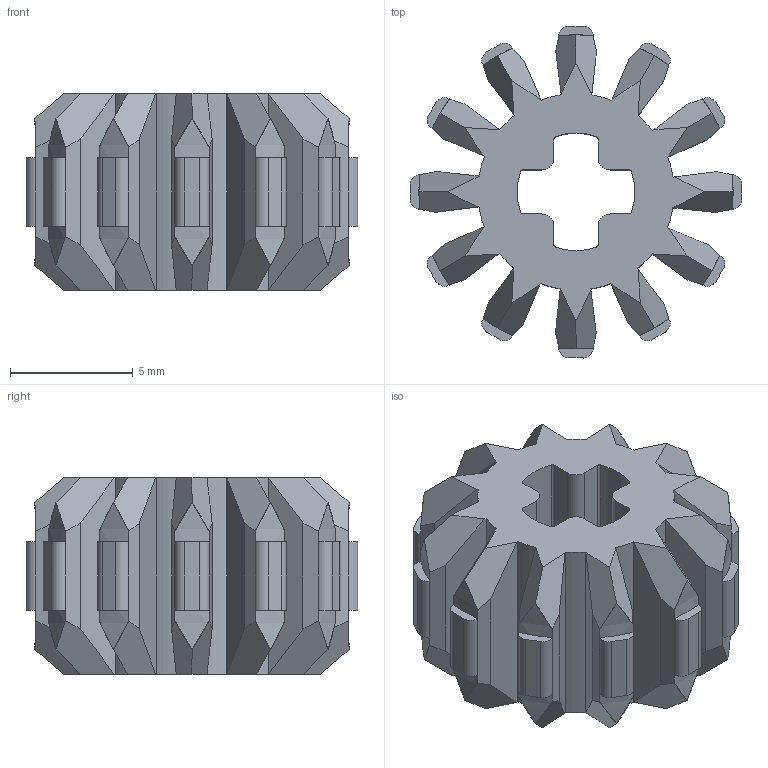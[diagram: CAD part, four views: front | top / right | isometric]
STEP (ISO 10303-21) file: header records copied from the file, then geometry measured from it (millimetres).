
FILE_DESCRIPTION(/* description */ ('Unknown'),/* implementation_level */ '2;1');
FILE_NAME(/* name */ 'Black_4177431_AVV',/* time_stamp */ '2025-07-21T23:46:33+02:00',/* author */ ('Unknown'),/* organization */ ('Unknown'),/* preprocessor_version */ 'ST-DEVELOPER v19.4',/* originating_system */ 'Solid Edge',/* authorisation */ 'Unknown');
FILE_SCHEMA (('AUTOMOTIVE_DESIGN {1 0 10303 214 3 1 1}'));
Length unit declared in the file: millimetre
Products named in the file (1): Black_4177431_AVV
Bounding box: 13.52 x 13.52 x 8 mm (x, y, z)
Volume: 586.6 mm3; surface area: 887.8 mm2
Topology: 1 solids, 1 shells, 266 faces, 672 edges, 408 vertices
Faces by surface type: plane 190, cylinder 76
Entity records: 7914 total; most frequent: DIRECTION 1430, CARTESIAN_POINT 1347, ORIENTED_EDGE 1344, EDGE_CURVE 672, AXIS2_PLACEMENT_3D 491, LINE 448, VECTOR 448, VERTEX_POINT 408
